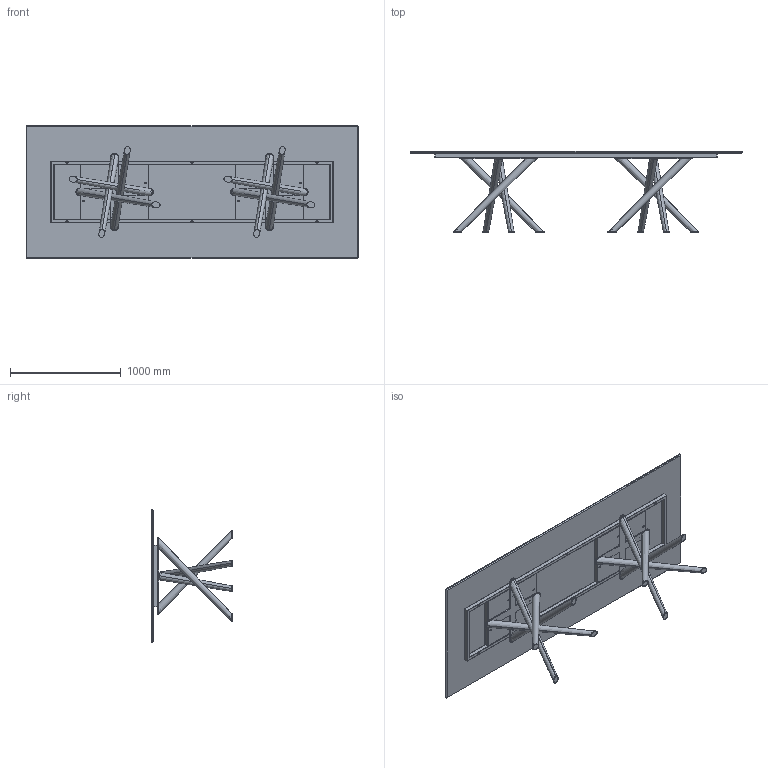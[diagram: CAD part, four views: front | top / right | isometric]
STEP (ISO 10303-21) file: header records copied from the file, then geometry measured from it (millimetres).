
FILE_DESCRIPTION (( 'STEP AP203' ), '1' );
FILE_NAME ('BA24C.STEP', '2024-08-08T06:23:52', ( '' ), ( '' ), 'SwSTEP 2.0', 'SolidWorks 2022', '' );
FILE_SCHEMA (( 'CONFIG_CONTROL_DESIGN' ));
Length unit declared in the file: millimetre
Products named in the file (9): TTAV03_01-06-RING TUBO TELAIO UNIVERSALE X TAVOLI 300-340cm; BAB000000-00-BALY BASE GREZZA; TTAV03-06-TELAIO UNIVERSALE X TAVOLI 300-340cm; BAB000000_01-00-Croce Superiore baly; TTAV03_02-06-VASSOIO IRRIGIDIMENTO TELAIO UNIVERSALE RETTANGOLARE; BA24C; BAB000000_02-00-basamento pali conificati; Parte5^BAB000000-00-BALY BASE GREZZA; K2XCMXX-00-Piani Rettangolari in ceramica_3000 x 1200
Assembly tree (10 placements, depth 3):
  BA24C
    K2XCMXX-00-Piani Rettangolari in ceramica_3000 x 1200
    TTAV03-06-TELAIO UNIVERSALE X TAVOLI 300-340cm
      TTAV03_01-06-RING TUBO TELAIO UNIVERSALE X TAVOLI 300-340cm
      TTAV03_02-06-VASSOIO IRRIGIDIMENTO TELAIO UNIVERSALE RETTANGOLARE  x2
    BAB000000-00-BALY BASE GREZZA  x2
      BAB000000_01-00-Croce Superiore baly
      BAB000000_02-00-basamento pali conificati
      Parte5^BAB000000-00-BALY BASE GREZZA
Bounding box: 3000 x 731 x 1200 mm (x, y, z)
Volume: 66689499.6 mm3; surface area: 20884928.1 mm2
Topology: 23 solids, 23 shells, 574 faces, 1410 edges, 876 vertices
Faces by surface type: plane 284, cylinder 202, cone 64, bspline 16, sphere 8
Entity records: 13070 total; most frequent: CARTESIAN_POINT 3541, DIRECTION 1771, ORIENTED_EDGE 1754, EDGE_CURVE 877, AXIS2_PLACEMENT_3D 612, VERTEX_POINT 550, LINE 547, VECTOR 547
